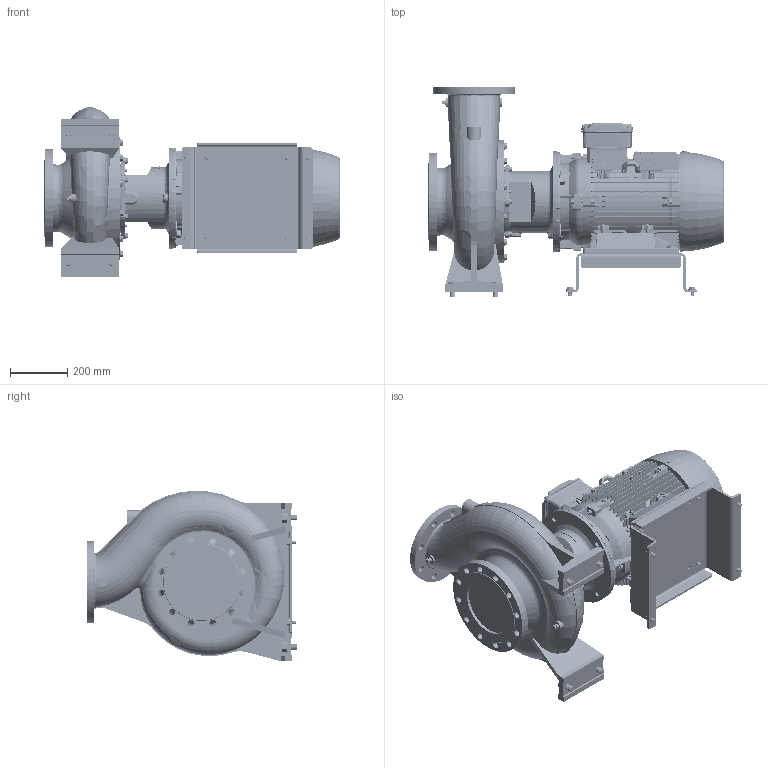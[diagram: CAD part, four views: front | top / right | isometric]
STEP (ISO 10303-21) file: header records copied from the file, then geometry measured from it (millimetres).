
FILE_DESCRIPTION (( 'STEP AP214' ), '1' );
FILE_NAME ('GSD4 150-315_22_(180ML)_W21.STEP', '2026-07-01T02:39:42', ( '' ), ( '' ), 'SwSTEP 2.0', 'SolidWorks 2024', '' );
FILE_SCHEMA (( 'AUTOMOTIVE_DESIGN' ));
Length unit declared in the file: millimetre
Products named in the file (12): GSD4 150-315_22_(180ML)_W21; 180M_L ALIE3_W21T_B35; Parametric bolt_SFT-A305B; Parametric bolt_SFT-A403B; Parametric bolt and washer_SFT-A403B; CGS11-5265; Parametric bolt and washer_SFT-A297B; 150-315-180M_L_ﾃﾞﾌｫﾙﾄ; Parametric Flat Washer_M20; Parametric bolt_SFT-A297B; Parametric Flat Washer_M12; Parametric bolt and washer_SFT-A305B
Assembly tree (21 placements, depth 3):
  GSD4 150-315_22_(180ML)_W21
    150-315-180M_L_ﾃﾞﾌｫﾙﾄ
    CGS11-5265
    Parametric bolt and washer_SFT-A403B  x4
      Parametric bolt_SFT-A403B
      Parametric Flat Washer_M20
    Parametric bolt and washer_SFT-A297B  x4
      Parametric bolt_SFT-A297B
      Parametric Flat Washer_M12
    Parametric bolt and washer_SFT-A305B  x4
      Parametric bolt_SFT-A305B
      Parametric Flat Washer_M12
    180M_L ALIE3_W21T_B35
Bounding box: 1029.8 x 732 x 593.47 mm (x, y, z)
Volume: 51273645.2 mm3; surface area: 4749129.7 mm2
Topology: 51 solids, 52 shells, 6705 faces, 17429 edges, 11290 vertices
Faces by surface type: plane 3902, cylinder 1367, cone 676, bspline 473, torus 271, sphere 16
Entity records: 250987 total; most frequent: CARTESIAN_POINT 107391, ORIENTED_EDGE 31746, DIRECTION 26506, EDGE_CURVE 15873, VERTEX_POINT 10285, LINE 9842, VECTOR 9842, AXIS2_PLACEMENT_3D 8332
